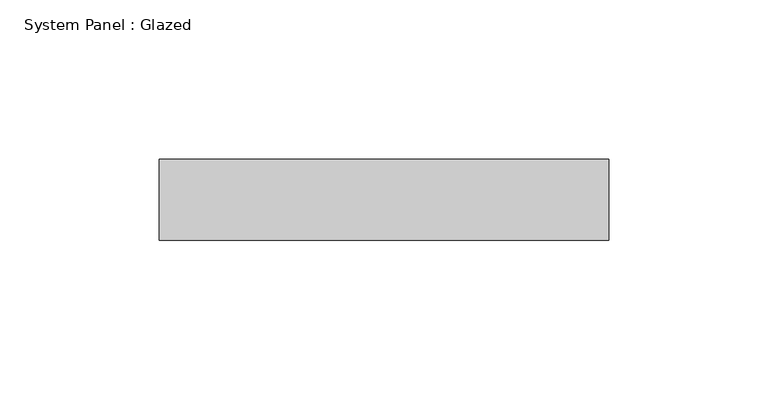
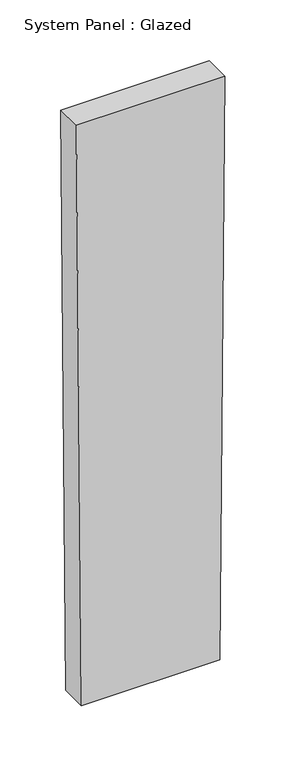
"""IFC4 building model written with IfcOpenShell, lengths in millimetres: plate geometry, System Panel : Glazed."""

import ifcopenshell
import ifcopenshell.guid

model = None  # the IFC model being written
_history = None  # IfcOwnerHistory: only IFC2X3 demands one
_inside = {}  # id of a spatial element -> (the spatial element, [elements in it])
_under = {}  # id of a project, library or spatial element -> (it, [spatial elements below it])
_declared = {}  # id of a project -> (the project, [libraries it declares])
_typed = {}  # id of a type object -> (the type object, [elements of that type])
_made_of = {}  # id of a material, layer set ... -> (it, [elements and type objects made of it])


def new_model(schema):
    """Start an empty IFC model of exactly this schema.

    Asked for "IFC4X3", IfcOpenShell would pick the latest addendum, in which some entities
    have other attributes; the version numbers below select the first issue.
    IFC2X3 requires an IfcOwnerHistory on every rooted entity: one is made here for all.
    """
    global model, _history
    if schema == "IFC4X3":
        model = ifcopenshell.file(schema_version=(4, 3, 0, 0))
    else:
        model = ifcopenshell.file(schema=schema)
    _inside.clear()
    _under.clear()
    _declared.clear()
    _typed.clear()
    _made_of.clear()
    _history = None
    if model.schema == "IFC2X3":
        org = make("IfcOrganization", Name="unknown")
        user = make(
            "IfcPersonAndOrganization",
            ThePerson=make("IfcPerson", FamilyName="unknown"),
            TheOrganization=org,
        )
        app = make(
            "IfcApplication",
            ApplicationDeveloper=org,
            Version="unknown",
            ApplicationFullName="unknown",
            ApplicationIdentifier="unknown",
        )
        _history = make(
            "IfcOwnerHistory",
            OwningUser=user,
            OwningApplication=app,
            ChangeAction="ADDED",
            CreationDate=0,
        )
    return model


def make(cls, **values):
    """One entity of the class cls with the attributes given. An attribute that is None is left unset."""
    return model.create_entity(
        cls, **{name: value for name, value in values.items() if value is not None}
    )


def rooted(cls, **values):
    """An entity with a GlobalId (a new one), such as an element, a storey or a relation."""
    return make(cls, GlobalId=ifcopenshell.guid.new(), OwnerHistory=_history, **values)


def si_unit(unit_type, name, prefix=None):
    """IfcSIUnit, for example si_unit("LENGTHUNIT", "METRE", prefix="MILLI")."""
    return make("IfcSIUnit", UnitType=unit_type, Prefix=prefix, Name=name)


def assignment(units):
    """IfcUnitAssignment: the units of a project."""
    return None if units is None else make("IfcUnitAssignment", Units=units)


def point(xyz):
    """IfcCartesianPoint."""
    return None if xyz is None else make("IfcCartesianPoint", Coordinates=xyz)


def direction(xyz):
    """IfcDirection."""
    return None if xyz is None else make("IfcDirection", DirectionRatios=xyz)


def frame(location, z_axis=None, x_axis=None):
    """IfcAxis2Placement3D, a coordinate frame: its origin and axes. An axis left out is left unset."""
    return make(
        "IfcAxis2Placement3D",
        Location=point(location),
        Axis=direction(z_axis),
        RefDirection=direction(x_axis),
    )


def origin():
    """The frame at (0, 0, 0) with its axes left unset."""
    return frame((0.0, 0.0, 0.0))


def place(relative_to, where):
    """IfcLocalPlacement: puts the frame where relative to a parent placement (None: the world)."""
    return make(
        "IfcLocalPlacement", PlacementRelTo=relative_to, RelativePlacement=where
    )


def context(
    kind, dimensions, precision=None, world=None, true_north=None, identifier=None
):
    """IfcGeometricRepresentationContext, for example the 3D "Model" context."""
    return make(
        "IfcGeometricRepresentationContext",
        ContextIdentifier=identifier,
        ContextType=kind,
        CoordinateSpaceDimension=dimensions,
        Precision=precision,
        WorldCoordinateSystem=world,
        TrueNorth=true_north,
    )


def project(units=None, contexts=None):
    """IfcProject with its units and contexts."""
    return rooted(
        "IfcProject",
        Name="project",
        RepresentationContexts=contexts,
        UnitsInContext=assignment(units),
    )


def spatial(cls, under=None, at=None, **own):
    """A site, building, storey or space (cls), placed at a placement, below another one or the project."""
    s = rooted(cls, ObjectPlacement=at, **own)
    if under is not None:
        _under.setdefault(under.id(), (under, []))[1].append(s)
    return s


def polyline(points):
    """IfcPolyline through the points."""
    return make("IfcPolyline", Points=[point(p) for p in points])


def outline(outer, holes=None, kind="AREA"):
    """IfcArbitraryClosedProfileDef: a profile drawn as a closed curve; with holes, ...WithVoids."""
    if holes is None:
        return make("IfcArbitraryClosedProfileDef", ProfileType=kind, OuterCurve=outer)
    return make(
        "IfcArbitraryProfileDefWithVoids",
        ProfileType=kind,
        OuterCurve=outer,
        InnerCurves=holes,
    )


def extrude(swept, where, along, depth):
    """IfcExtrudedAreaSolid: the profile swept, set in the frame where, extruded along a direction by depth."""
    return make(
        "IfcExtrudedAreaSolid",
        SweptArea=swept,
        Position=where,
        ExtrudedDirection=direction(along),
        Depth=depth,
    )


def shape(context_of_items, identifier, shape_type, items):
    """IfcShapeRepresentation: the items that make up one representation, for example the "Body"."""
    return make(
        "IfcShapeRepresentation",
        ContextOfItems=context_of_items,
        RepresentationIdentifier=identifier,
        RepresentationType=shape_type,
        Items=items,
    )


def source(mapping_origin, context_of_items, identifier, shape_type, items):
    """IfcRepresentationMap: a shape defined once, which mapped items show again and again."""
    return make(
        "IfcRepresentationMap",
        MappingOrigin=mapping_origin,
        MappedRepresentation=shape(context_of_items, identifier, shape_type, items),
    )


def transform(
    local_origin,
    x_axis=None,
    y_axis=None,
    z_axis=None,
    scale=None,
    scale2=None,
    scale3=None,
    uniform=True,
):
    """IfcCartesianTransformationOperator3D, or its non-uniform kind. x_axis, y_axis, z_axis: its Axis1, 2, 3."""
    if uniform:
        return make(
            "IfcCartesianTransformationOperator3D",
            Axis1=direction(x_axis),
            Axis2=direction(y_axis),
            LocalOrigin=point(local_origin),
            Scale=scale,
            Axis3=direction(z_axis),
        )
    return make(
        "IfcCartesianTransformationOperator3DnonUniform",
        Axis1=direction(x_axis),
        Axis2=direction(y_axis),
        LocalOrigin=point(local_origin),
        Scale=scale,
        Axis3=direction(z_axis),
        Scale2=scale2,
        Scale3=scale3,
    )


def mapped(mapping_source, mapping_target):
    """IfcMappedItem: shows the shape of a source again, moved by a transform."""
    return make(
        "IfcMappedItem", MappingSource=mapping_source, MappingTarget=mapping_target
    )


def made_of(thing, what):
    """Note that an element or type object is made of a material, layer set ...; save() writes the relation."""
    if what is not None:
        _made_of.setdefault(what.id(), (what, []))[1].append(thing)
    return thing


def element(
    cls,
    number,
    at=None,
    inside=None,
    cuts=None,
    type_object=None,
    material=None,
    context=None,
    identifier="Body",
    shape_type=None,
    held_by="IfcProductDefinitionShape",
    body=None,
    shapes=None,
    **own,
):
    """One element of the class cls, such as IfcWall. Its Tag is "e" and its number.

    at: its placement. inside: the storey or other place that contains it. cuts: it is an
    opening in that element (IfcRelVoidsElement). A single representation is given by context,
    identifier, shape_type and body (its items); several are given by shapes. held_by: the class
    of the entity that holds the representations. save() writes the other relations.
    """
    e = rooted(cls, Tag="e%d" % number, ObjectPlacement=at, **own)
    if body is not None:
        shapes = [shape(context, identifier, shape_type, body)]
    if shapes is not None:
        e.Representation = make(held_by, Representations=shapes)
    if inside is not None:
        _inside.setdefault(inside.id(), (inside, []))[1].append(e)
    if cuts is not None:
        rooted(
            "IfcRelVoidsElement", RelatingBuildingElement=cuts, RelatedOpeningElement=e
        )
    if type_object is not None:
        _typed.setdefault(type_object.id(), (type_object, []))[1].append(e)
    return made_of(e, material)


def aggregate(whole, parts):
    """IfcRelAggregates: a whole, such as a stair, and the parts it consists of."""
    return rooted("IfcRelAggregates", RelatingObject=whole, RelatedObjects=parts)


def save(model, path):
    """Write the relations noted so far, then the file.

    IfcRelAggregates (storeys below a building ...), IfcRelContainedInSpatialStructure (elements
    in a storey), IfcRelDefinesByType, IfcRelAssociatesMaterial and IfcRelDeclares: one each for
    every whole, place, type object, material and project.
    """
    for whole, parts in _under.values():
        aggregate(whole, parts)
    for where, things in _inside.values():
        rooted(
            "IfcRelContainedInSpatialStructure",
            RelatedElements=things,
            RelatingStructure=where,
        )
    for kind, things in _typed.values():
        rooted("IfcRelDefinesByType", RelatedObjects=things, RelatingType=kind)
    for what, things in _made_of.values():
        rooted("IfcRelAssociatesMaterial", RelatedObjects=things, RelatingMaterial=what)
    for by, libraries in _declared.values():
        rooted("IfcRelDeclares", RelatingContext=by, RelatedDefinitions=libraries)
    model.write(path)


def system_panel_glazed_cdef6847(model_context):
    return source(origin(), model_context, "Body", "SweptSolid", [
        extrude(outline(polyline([(0.0, -65.7516926), (0.0, 65.7516926), (584.1791084, 70.5882427), (584.1791084, -70.5882427), (0.0, -65.7516926)])), frame((0.0, -44.45, 0.0), z_axis=(0.0, 1.0, 0.0), x_axis=(0.0, 0.0, 1.0)), (0.0, 0.0, 1.0), 25.4),
    ])


if __name__ == "__main__":
    model = new_model("IFC4")
    model_context = context("Model", 3, world=origin())
    ifc_project = project(units=[si_unit("LENGTHUNIT", "METRE", prefix="MILLI")], contexts=[model_context])
    site = spatial("IfcSite", under=ifc_project)
    building = spatial("IfcBuilding", under=site)
    placement = place(None, origin())
    system_panel_glazed_shape = system_panel_glazed_cdef6847(model_context)
    element("IfcPlate", 1, ObjectType="System Panel : Glazed", at=placement, inside=building, context=model_context, shape_type="MappedRepresentation", body=[
        mapped(system_panel_glazed_shape, transform((0.0, 0.0, 0.0), x_axis=(1.0, 0.0, 0.0), y_axis=(0.0, 1.0, 0.0), z_axis=(0.0, 0.0, 1.0))),
    ])
    save(model, "model.ifc")
